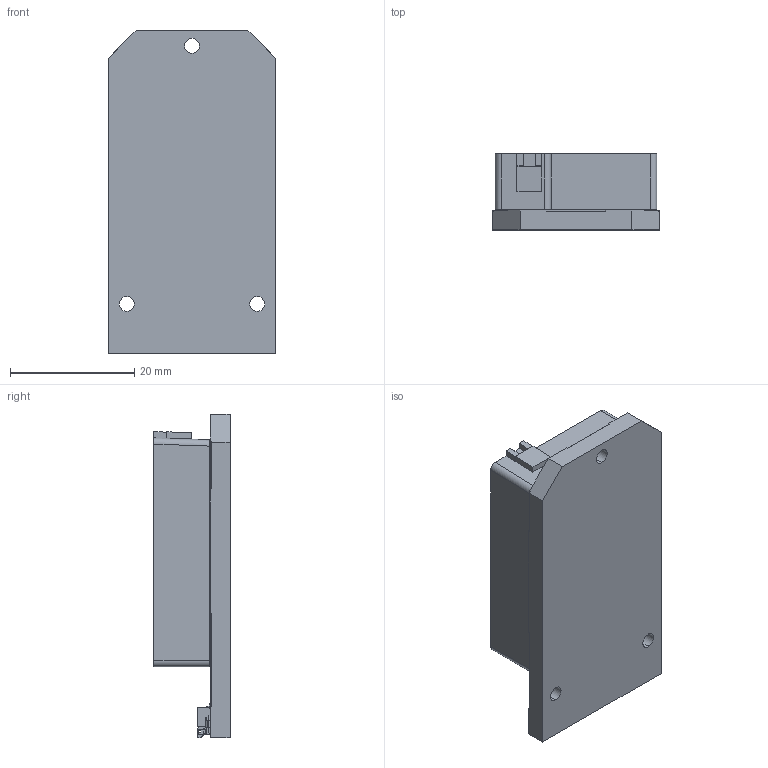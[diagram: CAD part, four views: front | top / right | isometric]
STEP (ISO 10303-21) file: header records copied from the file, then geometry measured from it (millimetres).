
FILE_DESCRIPTION (( 'STEP AP203' ), '1' );
FILE_NAME ('Nemo Laser Head.STEP', '2014-08-04T13:18:15', ( '' ), ( '' ), 'SwSTEP 2.0', 'SolidWorks 2014', '' );
FILE_SCHEMA (( 'CONFIG_CONTROL_DESIGN' ));
Products named in the file (1): Nemo Laser Head
Bounding box: 27 x 12.28 x 52 mm (x, y, z)
Surface area: 7155.2 mm2 (no closed solid volume)
Topology: 0 solids, 4 shells, 1484 faces, 4816 edges, 3136 vertices
Faces by surface type: plane 1263, cylinder 221
Entity records: 52682 total; most frequent: CARTESIAN_POINT 10179, ORIENTED_EDGE 9552, DIRECTION 7987, EDGE_CURVE 4816, VECTOR 4149, LINE 4149, VERTEX_POINT 3136, AXIS2_PLACEMENT_3D 1919
